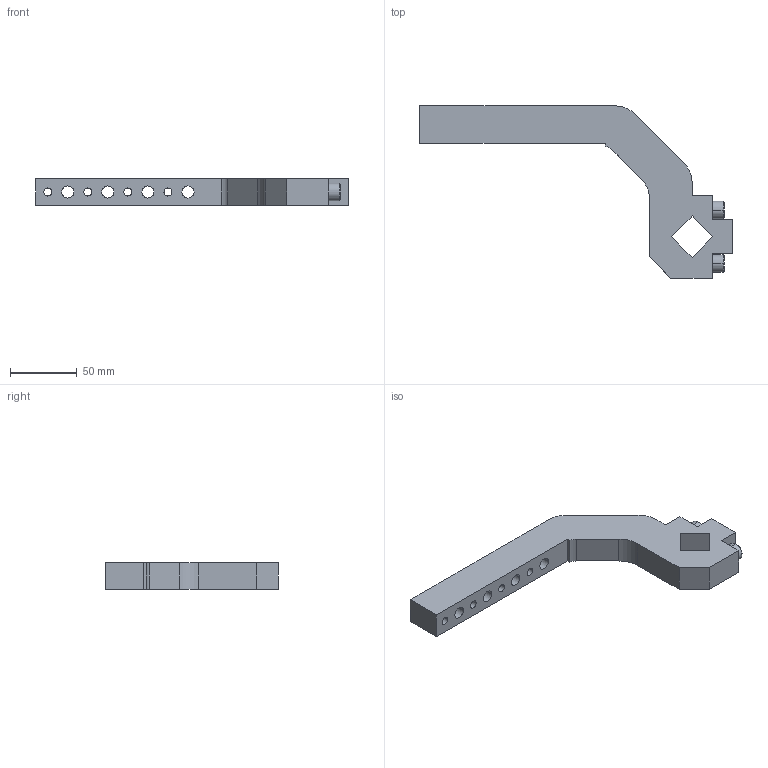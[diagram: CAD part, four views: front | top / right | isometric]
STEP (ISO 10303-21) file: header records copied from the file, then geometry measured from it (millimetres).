
FILE_DESCRIPTION((''),'2;1');
FILE_NAME('S:\Matthew\Step Files\XM Clamp Arms\XJ63-04.stp','2006-06-28T08:13:55',('Matthew'),(''),'Autodesk Inventor 8','Autodesk Inventor 8','');
FILE_SCHEMA(('AUTOMOTIVE_DESIGN { 1 0 10303 214 1 1 1 1 }'));
Length unit declared in the file: millimetre
Products named in the file (1): XJ63-04
Bounding box: 234 x 129 x 20 mm (x, y, z)
Volume: 171574.7 mm3; surface area: 38284.7 mm2
Topology: 1 solids, 1 shells, 52 faces, 140 edges, 92 vertices
Faces by surface type: plane 23, cylinder 22, bspline 5, cone 2
Entity records: 1755 total; most frequent: CARTESIAN_POINT 356, DIRECTION 288, ORIENTED_EDGE 280, EDGE_CURVE 140, AXIS2_PLACEMENT_3D 100, VERTEX_POINT 92, VECTOR 88, LINE 88
